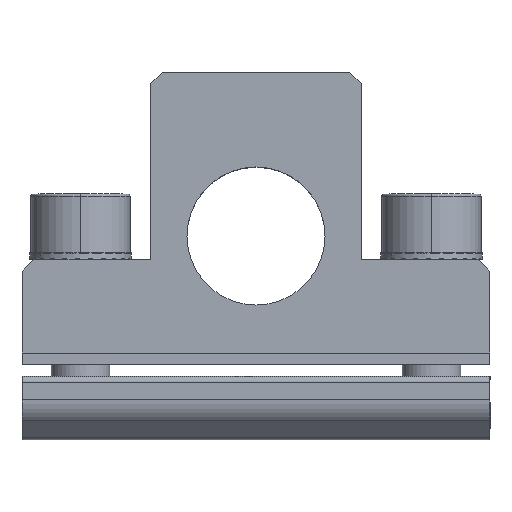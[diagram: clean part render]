
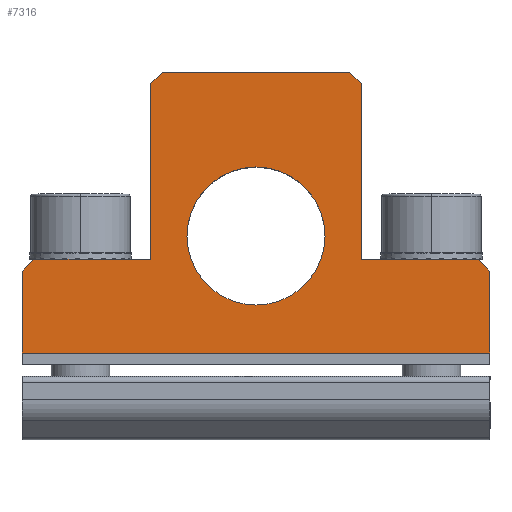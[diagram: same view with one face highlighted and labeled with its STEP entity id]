
A CAD part, top view. The second image highlights one B-rep face of the part: STEP entity #7316.
In plain terms, the highlighted planar face has unit normal (0, 0, 1).
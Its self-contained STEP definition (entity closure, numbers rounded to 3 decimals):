
#52 = CARTESIAN_POINT ( 'NONE',  ( -33.592, 12.785, 7.5 ) ) ;
#102 = VERTEX_POINT ( 'NONE', #10708 ) ;
#388 = EDGE_CURVE ( 'NONE', #22267, #21902, #8556, .T. ) ;
#715 = CARTESIAN_POINT ( 'NONE',  ( -22.592, 8.785, 7.5 ) ) ;
#1158 = CARTESIAN_POINT ( 'NONE',  ( 6.408, 0.785, 7.5 ) ) ;
#1254 = AXIS2_PLACEMENT_3D ( 'NONE', #7708, #20806, #9701 ) ;
#1455 = CARTESIAN_POINT ( 'NONE',  ( -5.592, 24.785, 7.5 ) ) ;
#1554 = DIRECTION ( 'NONE',  ( 0., -1., 0. ) ) ;
#1619 = VERTEX_POINT ( 'NONE', #8724 ) ;
#1624 = DIRECTION ( 'NONE',  ( 0., 1., 0. ) ) ;
#1705 = DIRECTION ( 'NONE',  ( 0.707, -0.707, 0. ) ) ;
#1951 = DIRECTION ( 'NONE',  ( 0., 0., 1. ) ) ;
#2111 = CARTESIAN_POINT ( 'NONE',  ( -13.592, 8.785, 7.5 ) ) ;
#2201 = CARTESIAN_POINT ( 'NONE',  ( -33.592, 0.785, 7.5 ) ) ;
#2304 = EDGE_CURVE ( 'NONE', #102, #16228, #18991, .T. ) ;
#2367 = EDGE_CURVE ( 'NONE', #12881, #19036, #16484, .T. ) ;
#2415 = FACE_OUTER_BOUND ( 'NONE', #9468, .T. ) ;
#2591 = VECTOR ( 'NONE', #1554, 1000. ) ;
#3265 = DIRECTION ( 'NONE',  ( 0., 0., 1. ) ) ;
#3362 = VECTOR ( 'NONE', #5723, 1000. ) ;
#3696 = VECTOR ( 'NONE', #14843, 1000. ) ;
#4024 = CARTESIAN_POINT ( 'NONE',  ( 6.408, 7.785, 7.5 ) ) ;
#4244 = EDGE_LOOP ( 'NONE', ( #10799, #22461 ) ) ;
#4257 = DIRECTION ( 'NONE',  ( -1., 0., 0. ) ) ;
#4572 = ORIENTED_EDGE ( 'NONE', *, *, #13197, .F. ) ;
#4671 = VERTEX_POINT ( 'NONE', #7696 ) ;
#4842 = AXIS2_PLACEMENT_3D ( 'NONE', #8970, #3265, #6972 ) ;
#4876 = VECTOR ( 'NONE', #1624, 1000. ) ;
#5314 = VERTEX_POINT ( 'NONE', #1455 ) ;
#5558 = EDGE_CURVE ( 'NONE', #22758, #5314, #14534, .T. ) ;
#5565 = LINE ( 'NONE', #13255, #19179 ) ;
#5723 = DIRECTION ( 'NONE',  ( 0.707, -0.707, 0. ) ) ;
#5850 = VERTEX_POINT ( 'NONE', #10229 ) ;
#6068 = EDGE_CURVE ( 'NONE', #102, #18692, #9444, .T. ) ;
#6152 = LINE ( 'NONE', #2111, #7317 ) ;
#6662 = CARTESIAN_POINT ( 'NONE',  ( -13.592, 0.785, 7.5 ) ) ;
#6972 = DIRECTION ( 'NONE',  ( 1., 0., 0. ) ) ;
#7231 = ORIENTED_EDGE ( 'NONE', *, *, #11300, .T. ) ;
#7265 = VECTOR ( 'NONE', #1705, 1000. ) ;
#7316 = ADVANCED_FACE ( 'NONE', ( #19459, #2415 ), #8853, .T. ) ;
#7317 = VECTOR ( 'NONE', #8060, 1000. ) ;
#7426 = CARTESIAN_POINT ( 'NONE',  ( 6.408, 12.785, 7.5 ) ) ;
#7444 = EDGE_CURVE ( 'NONE', #19036, #12881, #12909, .T. ) ;
#7558 = ORIENTED_EDGE ( 'NONE', *, *, #6068, .T. ) ;
#7696 = CARTESIAN_POINT ( 'NONE',  ( -32.592, 8.785, 7.5 ) ) ;
#7708 = CARTESIAN_POINT ( 'NONE',  ( -13.592, 10.785, 7.5 ) ) ;
#7920 = CARTESIAN_POINT ( 'NONE',  ( -4.592, 8.785, 7.5 ) ) ;
#8060 = DIRECTION ( 'NONE',  ( -1., 0., 0. ) ) ;
#8311 = VECTOR ( 'NONE', #16084, 1000. ) ;
#8556 = LINE ( 'NONE', #6662, #3696 ) ;
#8601 = EDGE_CURVE ( 'NONE', #1619, #11637, #21528, .T. ) ;
#8724 = CARTESIAN_POINT ( 'NONE',  ( -22.592, 23.785, 7.5 ) ) ;
#8826 = ORIENTED_EDGE ( 'NONE', *, *, #19393, .T. ) ;
#8853 = PLANE ( 'NONE',  #4842 ) ;
#8970 = CARTESIAN_POINT ( 'NONE',  ( -33.592, 0.785, 7.5 ) ) ;
#9444 = LINE ( 'NONE', #15248, #18891 ) ;
#9468 = EDGE_LOOP ( 'NONE', ( #19553, #13004, #8826, #10702, #7558, #17494, #24220, #14869, #21067, #9802, #7231, #4572 ) ) ;
#9701 = DIRECTION ( 'NONE',  ( 0., -1., 0. ) ) ;
#9802 = ORIENTED_EDGE ( 'NONE', *, *, #8601, .T. ) ;
#9972 = VECTOR ( 'NONE', #14417, 1000. ) ;
#10228 = LINE ( 'NONE', #12008, #15573 ) ;
#10229 = CARTESIAN_POINT ( 'NONE',  ( -33.592, 7.785, 7.5 ) ) ;
#10702 = ORIENTED_EDGE ( 'NONE', *, *, #2304, .F. ) ;
#10708 = CARTESIAN_POINT ( 'NONE',  ( 5.408, 8.785, 7.5 ) ) ;
#10799 = ORIENTED_EDGE ( 'NONE', *, *, #7444, .F. ) ;
#11048 = CARTESIAN_POINT ( 'NONE',  ( -4.592, 12.785, 7.5 ) ) ;
#11278 = LINE ( 'NONE', #11522, #3362 ) ;
#11300 = EDGE_CURVE ( 'NONE', #11637, #4671, #6152, .T. ) ;
#11522 = CARTESIAN_POINT ( 'NONE',  ( -5.092, 24.285, 7.5 ) ) ;
#11637 = VERTEX_POINT ( 'NONE', #715 ) ;
#12008 = CARTESIAN_POINT ( 'NONE',  ( -22.092, 24.285, 7.5 ) ) ;
#12881 = VERTEX_POINT ( 'NONE', #24279 ) ;
#12909 = CIRCLE ( 'NONE', #1254, 5.9 ) ;
#13004 = ORIENTED_EDGE ( 'NONE', *, *, #388, .T. ) ;
#13042 = CARTESIAN_POINT ( 'NONE',  ( -13.592, 4.885, 7.5 ) ) ;
#13080 = LINE ( 'NONE', #7426, #17029 ) ;
#13197 = EDGE_CURVE ( 'NONE', #5850, #4671, #5565, .T. ) ;
#13255 = CARTESIAN_POINT ( 'NONE',  ( -33.092, 8.285, 7.5 ) ) ;
#13540 = DIRECTION ( 'NONE',  ( 0., -1., 0. ) ) ;
#14417 = DIRECTION ( 'NONE',  ( 1., 0., 0. ) ) ;
#14534 = LINE ( 'NONE', #17954, #9972 ) ;
#14843 = DIRECTION ( 'NONE',  ( 1., 0., 0. ) ) ;
#14869 = ORIENTED_EDGE ( 'NONE', *, *, #5558, .F. ) ;
#15248 = CARTESIAN_POINT ( 'NONE',  ( -13.592, 8.785, 7.5 ) ) ;
#15426 = EDGE_CURVE ( 'NONE', #5850, #22267, #22981, .T. ) ;
#15573 = VECTOR ( 'NONE', #17679, 1000. ) ;
#16084 = DIRECTION ( 'NONE',  ( 0., -1., 0. ) ) ;
#16228 = VERTEX_POINT ( 'NONE', #4024 ) ;
#16484 = CIRCLE ( 'NONE', #20933, 5.9 ) ;
#17029 = VECTOR ( 'NONE', #18910, 1000. ) ;
#17035 = EDGE_CURVE ( 'NONE', #1619, #22758, #10228, .T. ) ;
#17494 = ORIENTED_EDGE ( 'NONE', *, *, #18602, .T. ) ;
#17679 = DIRECTION ( 'NONE',  ( 0.707, 0.707, 0. ) ) ;
#17954 = CARTESIAN_POINT ( 'NONE',  ( -13.592, 24.785, 7.5 ) ) ;
#18602 = EDGE_CURVE ( 'NONE', #18692, #22512, #18904, .T. ) ;
#18692 = VERTEX_POINT ( 'NONE', #7920 ) ;
#18891 = VECTOR ( 'NONE', #4257, 1000. ) ;
#18904 = LINE ( 'NONE', #11048, #4876 ) ;
#18910 = DIRECTION ( 'NONE',  ( 0., 1., 0. ) ) ;
#18991 = LINE ( 'NONE', #20621, #7265 ) ;
#19036 = VERTEX_POINT ( 'NONE', #13042 ) ;
#19179 = VECTOR ( 'NONE', #20949, 1000. ) ;
#19393 = EDGE_CURVE ( 'NONE', #21902, #16228, #13080, .T. ) ;
#19459 = FACE_BOUND ( 'NONE', #4244, .T. ) ;
#19553 = ORIENTED_EDGE ( 'NONE', *, *, #15426, .T. ) ;
#19925 = EDGE_CURVE ( 'NONE', #5314, #22512, #11278, .T. ) ;
#20621 = CARTESIAN_POINT ( 'NONE',  ( 5.908, 8.285, 7.5 ) ) ;
#20721 = CARTESIAN_POINT ( 'NONE',  ( -4.592, 23.785, 7.5 ) ) ;
#20806 = DIRECTION ( 'NONE',  ( 0., 0., 1. ) ) ;
#20933 = AXIS2_PLACEMENT_3D ( 'NONE', #24643, #1951, #13540 ) ;
#20949 = DIRECTION ( 'NONE',  ( 0.707, 0.707, 0. ) ) ;
#21067 = ORIENTED_EDGE ( 'NONE', *, *, #17035, .F. ) ;
#21528 = LINE ( 'NONE', #23670, #8311 ) ;
#21737 = CARTESIAN_POINT ( 'NONE',  ( -21.592, 24.785, 7.5 ) ) ;
#21902 = VERTEX_POINT ( 'NONE', #1158 ) ;
#22267 = VERTEX_POINT ( 'NONE', #2201 ) ;
#22461 = ORIENTED_EDGE ( 'NONE', *, *, #2367, .F. ) ;
#22512 = VERTEX_POINT ( 'NONE', #20721 ) ;
#22758 = VERTEX_POINT ( 'NONE', #21737 ) ;
#22981 = LINE ( 'NONE', #52, #2591 ) ;
#23670 = CARTESIAN_POINT ( 'NONE',  ( -22.592, 12.785, 7.5 ) ) ;
#24220 = ORIENTED_EDGE ( 'NONE', *, *, #19925, .F. ) ;
#24279 = CARTESIAN_POINT ( 'NONE',  ( -13.592, 16.685, 7.5 ) ) ;
#24643 = CARTESIAN_POINT ( 'NONE',  ( -13.592, 10.785, 7.5 ) ) ;
